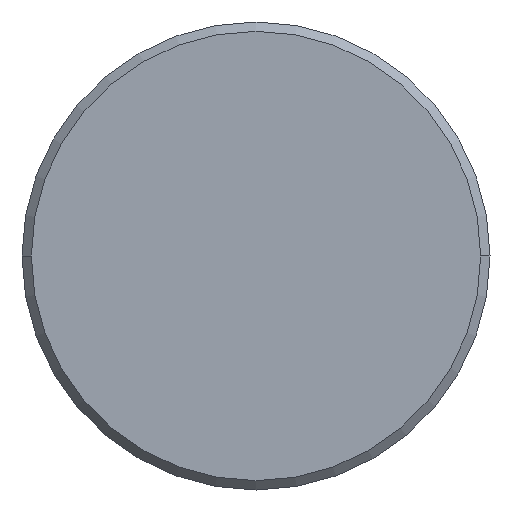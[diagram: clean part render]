
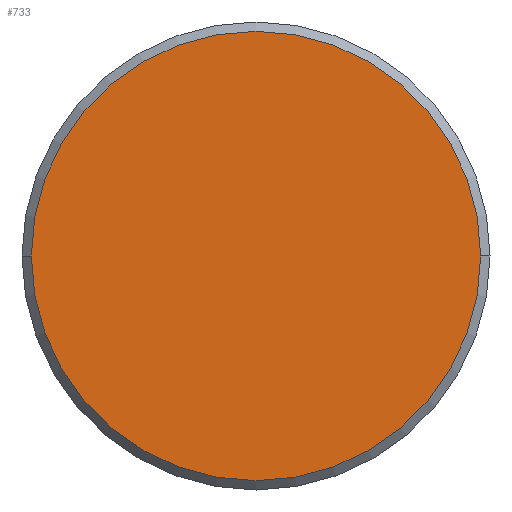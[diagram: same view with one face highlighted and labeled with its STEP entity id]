
A CAD part, front view. The second image highlights one B-rep face of the part: STEP entity #733.
In plain terms, the highlighted planar face has unit normal (0, -1, 0).
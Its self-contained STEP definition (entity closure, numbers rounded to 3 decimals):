
#6 = AXIS2_PLACEMENT_3D ( 'NONE', #125, #305, #474 ) ;
#22 = AXIS2_PLACEMENT_3D ( 'NONE', #390, #333, #731 ) ;
#125 = CARTESIAN_POINT ( 'NONE',  ( 0., 0., 0. ) ) ;
#145 = CIRCLE ( 'NONE', #6, 4.8 ) ;
#148 = DIRECTION ( 'NONE',  ( 0., 1., 0. ) ) ;
#155 = AXIS2_PLACEMENT_3D ( 'NONE', #493, #148, #211 ) ;
#196 = CIRCLE ( 'NONE', #22, 4.8 ) ;
#211 = DIRECTION ( 'NONE',  ( -1., 0., 0. ) ) ;
#261 = ORIENTED_EDGE ( 'NONE', *, *, #322, .F. ) ;
#305 = DIRECTION ( 'NONE',  ( 0., 1., 0. ) ) ;
#322 = EDGE_CURVE ( 'NONE', #338, #486, #145, .T. ) ;
#333 = DIRECTION ( 'NONE',  ( 0., 1., 0. ) ) ;
#338 = VERTEX_POINT ( 'NONE', #658 ) ;
#390 = CARTESIAN_POINT ( 'NONE',  ( 0., 0., 0. ) ) ;
#427 = PLANE ( 'NONE',  #155 ) ;
#474 = DIRECTION ( 'NONE',  ( -1., 0., 0. ) ) ;
#486 = VERTEX_POINT ( 'NONE', #631 ) ;
#493 = CARTESIAN_POINT ( 'NONE',  ( 0., 0., 0. ) ) ;
#570 = EDGE_LOOP ( 'NONE', ( #690, #261 ) ) ;
#629 = FACE_OUTER_BOUND ( 'NONE', #570, .T. ) ;
#631 = CARTESIAN_POINT ( 'NONE',  ( -4.8, 0., 0. ) ) ;
#658 = CARTESIAN_POINT ( 'NONE',  ( 4.8, 0., 0. ) ) ;
#690 = ORIENTED_EDGE ( 'NONE', *, *, #740, .F. ) ;
#731 = DIRECTION ( 'NONE',  ( -1., 0., 0. ) ) ;
#733 = ADVANCED_FACE ( 'NONE', ( #629 ), #427, .F. ) ;
#740 = EDGE_CURVE ( 'NONE', #486, #338, #196, .T. ) ;
